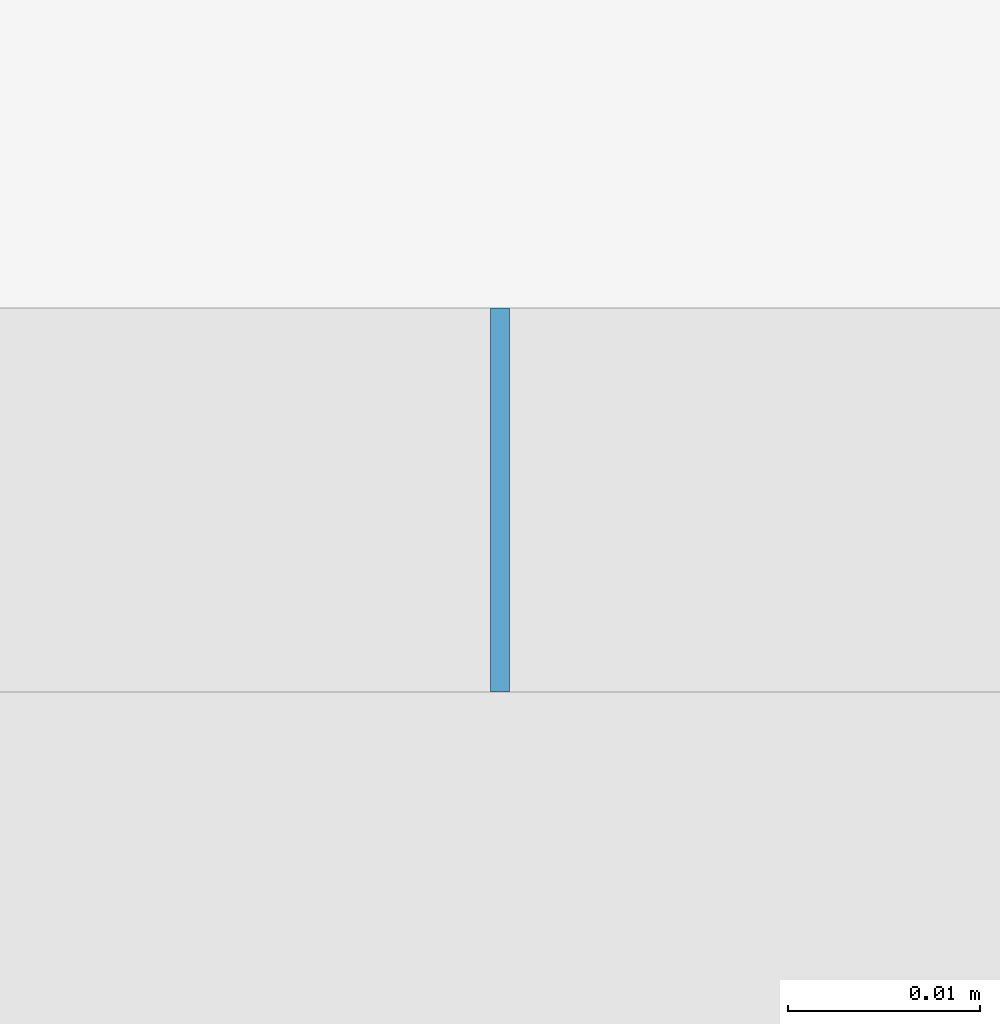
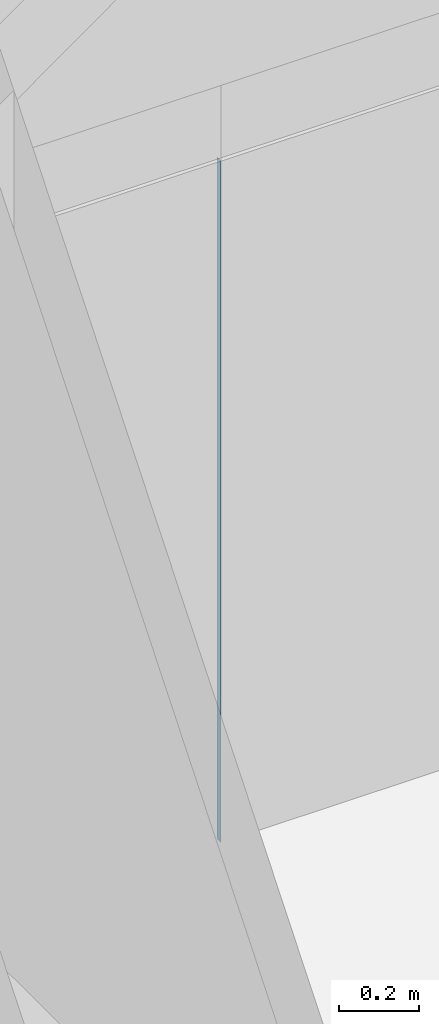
# One storey, part 16 of 66: 1 plate, 1 element without a shape of its own.
"""IFC2X3 building model written with IfcOpenShell, lengths in millimetres."""

from ifc_helpers import new_model, entity, si_unit, converted_unit, derived_unit, direction, frame, origin, origin_2d_with_axis, place, context, subcontext, project, spatial, rectangle, extrude, source, transform, mapped, material, layer, layer_set, layer_usage, type_object, type_shapes, element, aggregate, save


model = new_model("IFC2X3")

# Units and contexts
model_context = context("Model", 3, precision=0.01, world=origin(), true_north=direction((6.12303176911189e-17, 1.0)))
body_context = subcontext(model_context, "Body", "Model", "MODEL_VIEW")
ifc_project = project(units=[si_unit("LENGTHUNIT", "METRE", prefix="MILLI"), si_unit("AREAUNIT", "SQUARE_METRE"), si_unit("VOLUMEUNIT", "CUBIC_METRE"), converted_unit("PLANEANGLEUNIT", "DEGREE", entity("IfcRatioMeasure", 0.0174532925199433), si_unit("PLANEANGLEUNIT", "RADIAN"), dimensions=[0, 0, 0, 0, 0, 0, 0]), si_unit("MASSUNIT", "GRAM", prefix="KILO"), derived_unit("MASSDENSITYUNIT", [(si_unit("MASSUNIT", "GRAM", prefix="KILO"), 1), (si_unit("LENGTHUNIT", "METRE"), -3)]), si_unit("TIMEUNIT", "SECOND"), si_unit("FREQUENCYUNIT", "HERTZ"), si_unit("THERMODYNAMICTEMPERATUREUNIT", "DEGREE_CELSIUS"), derived_unit("THERMALTRANSMITTANCEUNIT", [(si_unit("MASSUNIT", "GRAM", prefix="KILO"), 1), (si_unit("THERMODYNAMICTEMPERATUREUNIT", "KELVIN"), -1), (si_unit("TIMEUNIT", "SECOND"), -3)]), derived_unit("VOLUMETRICFLOWRATEUNIT", [(si_unit("LENGTHUNIT", "METRE"), 3), (si_unit("TIMEUNIT", "SECOND"), -1)]), si_unit("ELECTRICCURRENTUNIT", "AMPERE"), si_unit("ELECTRICVOLTAGEUNIT", "VOLT"), si_unit("POWERUNIT", "WATT"), si_unit("FORCEUNIT", "NEWTON", prefix="KILO"), si_unit("ILLUMINANCEUNIT", "LUX"), si_unit("LUMINOUSFLUXUNIT", "LUMEN"), si_unit("LUMINOUSINTENSITYUNIT", "CANDELA"), derived_unit("USERDEFINED", [(si_unit("MASSUNIT", "GRAM", prefix="KILO"), -1), (si_unit("LENGTHUNIT", "METRE"), -2), (si_unit("TIMEUNIT", "SECOND"), 3), (si_unit("LUMINOUSFLUXUNIT", "LUMEN"), 1)]), derived_unit("LINEARVELOCITYUNIT", [(si_unit("LENGTHUNIT", "METRE"), 1), (si_unit("TIMEUNIT", "SECOND"), -1)]), si_unit("PRESSUREUNIT", "PASCAL"), derived_unit("USERDEFINED", [(si_unit("LENGTHUNIT", "METRE"), -2), (si_unit("MASSUNIT", "GRAM", prefix="KILO"), 1), (si_unit("TIMEUNIT", "SECOND"), -2)])], contexts=[model_context])

# Site, building, storey
site_placement = place(None, frame((-151.875543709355, 2715.0, 0.0)))
site = spatial("IfcSite", under=ifc_project, at=site_placement, Name="Surface", CompositionType="ELEMENT")
building_placement = place(site_placement, origin())
building = spatial("IfcBuilding", under=site, at=building_placement, CompositionType="ELEMENT")
storey_placement = place(building_placement, frame((0.0, 0.0, 3350.0)))
storey = spatial("IfcBuildingStorey", under=building, at=storey_placement, Name="2 korrus", CompositionType="ELEMENT", Elevation=3350.00000000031)

# Curtain wall, plate
curtain_wall_type = type_object("IfcCurtainWallType", Name="Curtain Wall:Klaassein KLS-08", PredefinedType="NOTDEFINED")
curtain_wall_placement = place(storey_placement, frame((0.0, 0.0, -3350.0)))
curtain_wall = element("IfcCurtainWall", 1, at=curtain_wall_placement, inside=storey, type_object=curtain_wall_type, Name="Curtain Wall:Klaassein KLS-08", ObjectType="Curtain Wall:Klaassein KLS-08")
ifc_material = material(Name="<Unnamed>")
ifc_layer = layer(ifc_material, 20.0)
ifc_layer_set = layer_set([ifc_layer], Name="Curtain Wall:Klaassein KLS-01")
ifc_layer_usage = layer_usage(ifc_layer_set, "AXIS3", "POSITIVE", 0.0)
plate_type = type_object("IfcPlateType", Name="Glazed", PredefinedType="CURTAIN_PANEL", material=ifc_layer_set)
shared_shape = source(origin(), body_context, "Body", "SweptSolid", [
    extrude(rectangle(XDim=20.0, YDim=0.999999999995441, at=origin_2d_with_axis()), frame((0.0, 0.0, 0.0), z_axis=(0.0, 0.0, 1.0), x_axis=(0.0, 1.0, 0.0)), (0.0, 0.0, 1.0), 2090.0),
])
type_shapes(plate_type, [shared_shape])
plate_placement = place(curtain_wall_placement, frame((7659.98460786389, 4355.04493399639, 3350.0)))
plate = element("IfcPlate", 2, at=plate_placement, type_object=plate_type, material=ifc_layer_usage, Name="System Panel:Glazed", ObjectType="Glazed", context=body_context, shape_type="MappedRepresentation", body=[
    mapped(shared_shape, transform((0.0, 0.0, 0.0), scale=1.0)),
])
aggregate(curtain_wall, [plate])

save(model, "model.ifc")
